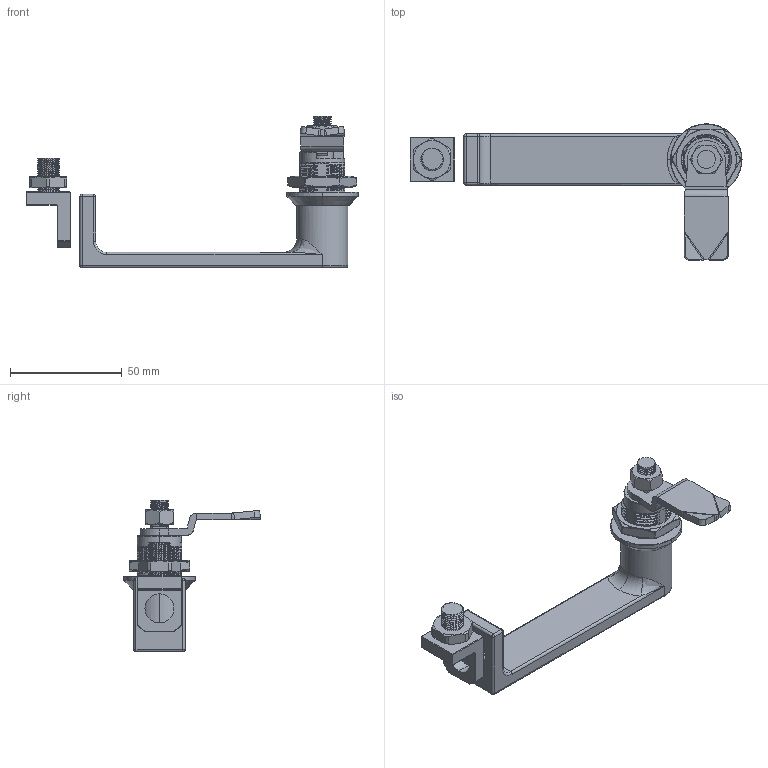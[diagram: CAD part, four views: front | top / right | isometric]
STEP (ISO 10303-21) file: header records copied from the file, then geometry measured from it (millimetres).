
FILE_DESCRIPTION (( 'STEP AP214' ), '1' );
FILE_NAME ('CUYUE B-1312.STEP', '2026-06-20T06:22:30', ( '' ), ( '' ), 'SwSTEP 2.0', 'SolidWorks 2020', '' );
FILE_SCHEMA (( 'AUTOMOTIVE_DESIGN' ));
Length unit declared in the file: millimetre
Products named in the file (10): CUYUE B-1312; 蚾饜极_sldasm.sldasm-Part-7; 蚾饜极_sldasm.sldasm-Part-4; 蚾饜极_sldasm.sldasm-Part-5; 蚾饜极_sldasm.sldasm-Part-9; 蚾饜极_sldasm.sldasm-Part-3; 蚾饜极_sldasm.sldasm-Part-6; 蚾饜极_sldasm.sldasm-Part-1; 蚾饜极_sldasm.sldasm-Part-8; 蚾饜极_sldasm.sldasm-Part-2
Assembly tree (9 placements, depth 2):
  CUYUE B-1312
    蚾饜极_sldasm.sldasm-Part-1
    蚾饜极_sldasm.sldasm-Part-2
    蚾饜极_sldasm.sldasm-Part-3
    蚾饜极_sldasm.sldasm-Part-4
    蚾饜极_sldasm.sldasm-Part-5
    蚾饜极_sldasm.sldasm-Part-6
    蚾饜极_sldasm.sldasm-Part-7
    蚾饜极_sldasm.sldasm-Part-8
    蚾饜极_sldasm.sldasm-Part-9
Bounding box: 148.65 x 61.15 x 68 mm (x, y, z)
Volume: 51920.7 mm3; surface area: 25626 mm2
Topology: 9 solids, 9 shells, 712 faces, 1787 edges, 1089 vertices
Faces by surface type: bspline 226, cylinder 219, plane 164, cone 55, torus 30, sphere 18
Entity records: 58441 total; most frequent: CARTESIAN_POINT 43629, ORIENTED_EDGE 3534, DIRECTION 2387, EDGE_CURVE 1767, VERTEX_POINT 1089, AXIS2_PLACEMENT_3D 883, EDGE_LOOP 746, ADVANCED_FACE 712
